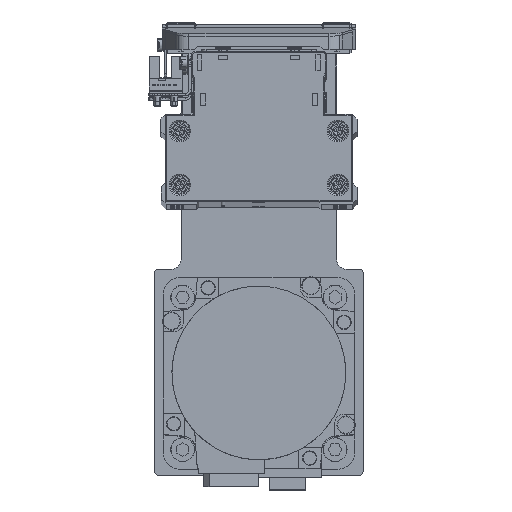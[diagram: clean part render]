
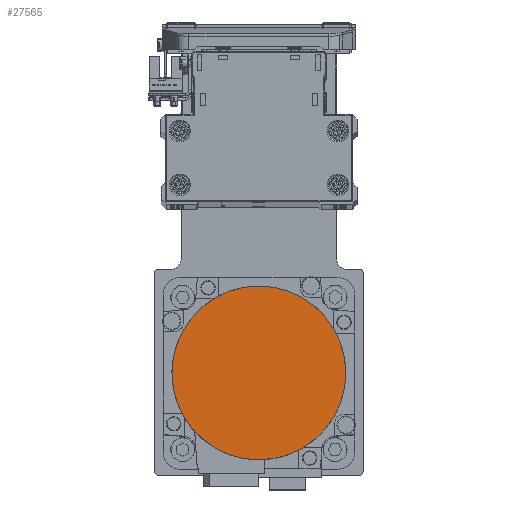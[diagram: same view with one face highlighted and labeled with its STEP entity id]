
A CAD part, top view. The second image highlights one B-rep face of the part: STEP entity #27565.
In plain terms, the highlighted planar face has unit normal (0, 0, 1) as drawn and (0, 0, -1) by its records, which use the part's own axes.
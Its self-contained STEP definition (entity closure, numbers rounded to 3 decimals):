
#2235 = PLANE ( 'NONE',  #31840 ) ;
#3577 = CARTESIAN_POINT ( 'NONE',  ( 0., -36.3, -122.2 ) ) ;
#4815 = CARTESIAN_POINT ( 'NONE',  ( 0., 36.3, -122.2 ) ) ;
#8704 = EDGE_LOOP ( 'NONE', ( #33480, #18722 ) ) ;
#10094 = DIRECTION ( 'NONE',  ( 0., 0., 1. ) ) ;
#12194 = VERTEX_POINT ( 'NONE', #3577 ) ;
#13811 = CARTESIAN_POINT ( 'NONE',  ( 0., 0., -122.2 ) ) ;
#14714 = CARTESIAN_POINT ( 'NONE',  ( 0., 0., -122.2 ) ) ;
#18722 = ORIENTED_EDGE ( 'NONE', *, *, #36798, .F. ) ;
#22580 = DIRECTION ( 'NONE',  ( 0., 1., 0. ) ) ;
#24233 = CIRCLE ( 'NONE', #29454, 36.3 ) ;
#26307 = DIRECTION ( 'NONE',  ( 0., 0., 1. ) ) ;
#26854 = AXIS2_PLACEMENT_3D ( 'NONE', #13811, #26307, #38759 ) ;
#27204 = DIRECTION ( 'NONE',  ( 0., 0., 1. ) ) ;
#27565 = ADVANCED_FACE ( 'NONE', ( #33310 ), #2235, .F. ) ;
#29372 = EDGE_CURVE ( 'NONE', #30397, #12194, #24233, .T. ) ;
#29454 = AXIS2_PLACEMENT_3D ( 'NONE', #38102, #10094, #22580 ) ;
#30397 = VERTEX_POINT ( 'NONE', #4815 ) ;
#31840 = AXIS2_PLACEMENT_3D ( 'NONE', #14714, #27204, #39656 ) ;
#33310 = FACE_OUTER_BOUND ( 'NONE', #8704, .T. ) ;
#33480 = ORIENTED_EDGE ( 'NONE', *, *, #29372, .F. ) ;
#36798 = EDGE_CURVE ( 'NONE', #12194, #30397, #39234, .T. ) ;
#38102 = CARTESIAN_POINT ( 'NONE',  ( 0., 0., -122.2 ) ) ;
#38759 = DIRECTION ( 'NONE',  ( 0., -1., 0. ) ) ;
#39234 = CIRCLE ( 'NONE', #26854, 36.3 ) ;
#39656 = DIRECTION ( 'NONE',  ( 1., 0., 0. ) ) ;
